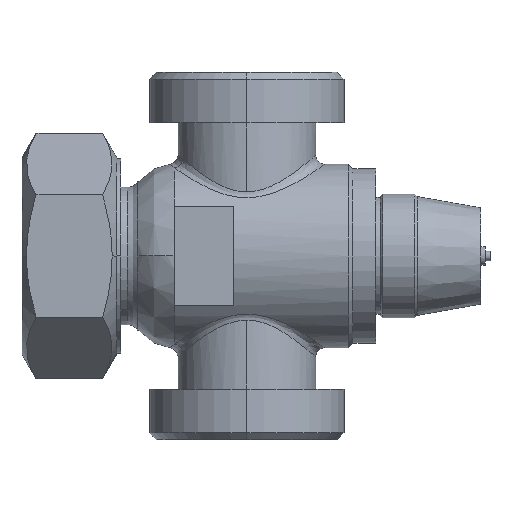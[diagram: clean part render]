
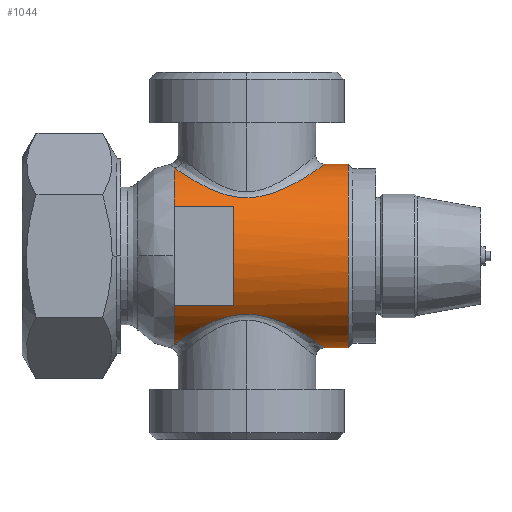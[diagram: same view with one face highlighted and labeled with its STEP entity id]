
A CAD part, left-side view. The second image highlights one B-rep face of the part: STEP entity #1044.
In plain terms, the highlighted cylindrical face has radius 20 mm (diameter 40 mm), a partial arc.
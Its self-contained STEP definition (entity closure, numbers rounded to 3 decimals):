
#837=CARTESIAN_POINT('',(0.0,-22.1,20.));
#838=VERTEX_POINT('',#837);
#847=CARTESIAN_POINT('',(0.,-22.1,60.));
#848=VERTEX_POINT('',#847);
#906=CARTESIAN_POINT('',(0.,-4.5,40.));
#907=DIRECTION('',(0.,1.0,0.));
#908=DIRECTION('',(0.0,0.0,-1.0));
#909=AXIS2_PLACEMENT_3D('',#906,#907,#908);
#910=CYLINDRICAL_SURFACE('',#909,20.0);
#911=CARTESIAN_POINT('',(0.,-17.,20.));
#912=VERTEX_POINT('',#911);
#913=CARTESIAN_POINT('',(0.0,-22.1,20.));
#914=DIRECTION('',(0.0,1.0,0.0));
#915=VECTOR('',#914,5.1);
#916=LINE('',#913,#915);
#917=EDGE_CURVE('',#838,#912,#916,.T.);
#918=ORIENTED_EDGE('',*,*,#917,.F.);
#919=CARTESIAN_POINT('',(0.,-22.1,40.));
#920=DIRECTION('',(0.0,1.0,0.0));
#921=DIRECTION('',(0.0,0.0,-1.0));
#922=AXIS2_PLACEMENT_3D('',#919,#920,#921);
#923=CIRCLE('',#922,20.0);
#924=EDGE_CURVE('',#838,#848,#923,.T.);
#925=ORIENTED_EDGE('',*,*,#924,.T.);
#926=CARTESIAN_POINT('',(0.,-17.,60.));
#927=VERTEX_POINT('',#926);
#928=CARTESIAN_POINT('',(0.,-17.,60.));
#929=DIRECTION('',(0.0,-1.0,0.0));
#930=VECTOR('',#929,5.1);
#931=LINE('',#928,#930);
#932=EDGE_CURVE('',#927,#848,#931,.T.);
#933=ORIENTED_EDGE('',*,*,#932,.F.);
#934=CARTESIAN_POINT('',(-15.455,0.,52.695));
#935=VERTEX_POINT('',#934);
#936=CARTESIAN_POINT('',(0.,-17.,60.));
#937=CARTESIAN_POINT('',(-2.789,-17.,60.));
#938=CARTESIAN_POINT('',(-5.566,-16.122,59.368));
#939=CARTESIAN_POINT('',(-10.35,-13.025,57.33));
#940=CARTESIAN_POINT('',(-12.312,-10.745,55.867));
#941=CARTESIAN_POINT('',(-14.78,-5.629,53.562));
#942=CARTESIAN_POINT('',(-15.455,-2.864,52.695));
#943=CARTESIAN_POINT('',(-15.455,0.,52.695));
#944=B_SPLINE_CURVE_WITH_KNOTS('',3,(#936,#937,#938,#939,#940,#941,#942,#943),.UNSPECIFIED.,.F.,.U.,(4,2,2,4),(71.757,79.639,88.347,95.678),.UNSPECIFIED.);
#945=EDGE_CURVE('',#935,#927,#944,.F.);
#946=ORIENTED_EDGE('',*,*,#945,.F.);
#947=CARTESIAN_POINT('',(-5.612,15.84,59.197));
#948=VERTEX_POINT('',#947);
#949=CARTESIAN_POINT('',(-15.455,0.,52.695));
#950=CARTESIAN_POINT('',(-15.455,0.998,52.695));
#951=CARTESIAN_POINT('',(-15.374,1.995,52.795));
#952=CARTESIAN_POINT('',(-15.218,2.96,52.977));
#953=CARTESIAN_POINT('',(-14.97,4.504,53.268));
#954=CARTESIAN_POINT('',(-14.538,5.954,53.759));
#955=CARTESIAN_POINT('',(-13.963,7.287,54.319));
#956=CARTESIAN_POINT('',(-13.129,9.219,55.132));
#957=CARTESIAN_POINT('',(-11.997,10.924,56.087));
#958=CARTESIAN_POINT('',(-10.595,12.376,56.963));
#959=CARTESIAN_POINT('',(-9.192,13.829,57.839));
#960=CARTESIAN_POINT('',(-7.513,15.024,58.641));
#961=CARTESIAN_POINT('',(-5.612,15.84,59.197));
#962=B_SPLINE_CURVE_WITH_KNOTS('',3,(#949,#950,#951,#952,#953,#954,#955,#956,#957,#958,#959,#960,#961),.UNSPECIFIED.,.F.,.U.,(4,3,3,3,4),(0.0,2.553,6.639,12.558,18.479),.UNSPECIFIED.);
#963=EDGE_CURVE('',#948,#935,#962,.F.);
#964=ORIENTED_EDGE('',*,*,#963,.F.);
#965=CARTESIAN_POINT('',(-16.827,15.84,50.81));
#966=VERTEX_POINT('',#965);
#967=CARTESIAN_POINT('',(0.,15.84,40.));
#968=DIRECTION('',(0.0,1.0,0.0));
#969=DIRECTION('',(-1.0,0.0,0.0));
#970=AXIS2_PLACEMENT_3D('',#967,#968,#969);
#971=CIRCLE('',#970,20.0);
#972=EDGE_CURVE('',#966,#948,#971,.T.);
#973=ORIENTED_EDGE('',*,*,#972,.F.);
#974=CARTESIAN_POINT('',(-16.827,2.949,50.81));
#975=VERTEX_POINT('',#974);
#976=CARTESIAN_POINT('',(-16.827,2.949,50.81));
#977=DIRECTION('',(0.0,1.0,0.0));
#978=VECTOR('',#977,12.891);
#979=LINE('',#976,#978);
#980=EDGE_CURVE('',#975,#966,#979,.T.);
#981=ORIENTED_EDGE('',*,*,#980,.F.);
#982=CARTESIAN_POINT('',(-16.827,2.949,29.19));
#983=VERTEX_POINT('',#982);
#984=CARTESIAN_POINT('',(0.,2.949,40.));
#985=DIRECTION('',(0.0,1.0,0.0));
#986=DIRECTION('',(0.0,0.0,-1.0));
#987=AXIS2_PLACEMENT_3D('',#984,#985,#986);
#988=CIRCLE('',#987,20.0);
#989=EDGE_CURVE('',#983,#975,#988,.T.);
#990=ORIENTED_EDGE('',*,*,#989,.F.);
#991=CARTESIAN_POINT('',(-16.827,15.84,29.19));
#992=VERTEX_POINT('',#991);
#993=CARTESIAN_POINT('',(-16.827,15.84,29.19));
#994=DIRECTION('',(0.0,-1.0,0.0));
#995=VECTOR('',#994,12.891);
#996=LINE('',#993,#995);
#997=EDGE_CURVE('',#992,#983,#996,.T.);
#998=ORIENTED_EDGE('',*,*,#997,.F.);
#999=CARTESIAN_POINT('',(-5.612,15.84,20.803));
#1000=VERTEX_POINT('',#999);
#1001=CARTESIAN_POINT('',(0.,15.84,40.));
#1002=DIRECTION('',(0.0,1.0,0.0));
#1003=DIRECTION('',(-1.0,0.0,0.0));
#1004=AXIS2_PLACEMENT_3D('',#1001,#1002,#1003);
#1005=CIRCLE('',#1004,20.0);
#1006=EDGE_CURVE('',#1000,#992,#1005,.T.);
#1007=ORIENTED_EDGE('',*,*,#1006,.F.);
#1008=CARTESIAN_POINT('',(-15.455,0.,27.305));
#1009=VERTEX_POINT('',#1008);
#1010=CARTESIAN_POINT('',(-5.612,15.84,20.803));
#1011=CARTESIAN_POINT('',(-6.39,15.506,21.031));
#1012=CARTESIAN_POINT('',(-7.137,15.105,21.301));
#1013=CARTESIAN_POINT('',(-7.839,14.651,21.6));
#1014=CARTESIAN_POINT('',(-10.35,13.025,22.67));
#1015=CARTESIAN_POINT('',(-12.312,10.745,24.133));
#1016=CARTESIAN_POINT('',(-13.652,7.967,25.384));
#1017=CARTESIAN_POINT('',(-14.78,5.629,26.438));
#1018=CARTESIAN_POINT('',(-15.455,2.864,27.305));
#1019=CARTESIAN_POINT('',(-15.455,0.,27.305));
#1020=B_SPLINE_CURVE_WITH_KNOTS('',3,(#1010,#1011,#1012,#1013,#1014,#1015,#1016,#1017,#1018,#1019),.UNSPECIFIED.,.F.,.U.,(4,3,3,4),(77.204,79.639,88.347,95.678),.UNSPECIFIED.);
#1021=EDGE_CURVE('',#1009,#1000,#1020,.F.);
#1022=ORIENTED_EDGE('',*,*,#1021,.F.);
#1023=CARTESIAN_POINT('',(-15.455,0.,27.305));
#1024=CARTESIAN_POINT('',(-15.455,-0.998,27.305));
#1025=CARTESIAN_POINT('',(-15.374,-1.995,27.205));
#1026=CARTESIAN_POINT('',(-15.218,-2.96,27.023));
#1027=CARTESIAN_POINT('',(-14.97,-4.504,26.732));
#1028=CARTESIAN_POINT('',(-14.538,-5.954,26.241));
#1029=CARTESIAN_POINT('',(-13.963,-7.287,25.681));
#1030=CARTESIAN_POINT('',(-13.129,-9.219,24.868));
#1031=CARTESIAN_POINT('',(-11.997,-10.924,23.913));
#1032=CARTESIAN_POINT('',(-10.595,-12.376,23.037));
#1033=CARTESIAN_POINT('',(-8.794,-14.242,21.912));
#1034=CARTESIAN_POINT('',(-6.518,-15.69,20.91));
#1035=CARTESIAN_POINT('',(-3.943,-16.437,20.393));
#1036=CARTESIAN_POINT('',(-2.671,-16.807,20.137));
#1037=CARTESIAN_POINT('',(-1.334,-17.,20.));
#1038=CARTESIAN_POINT('',(0.,-17.,20.));
#1039=B_SPLINE_CURVE_WITH_KNOTS('',3,(#1023,#1024,#1025,#1026,#1027,#1028,#1029,#1030,#1031,#1032,#1033,#1034,#1035,#1036,#1037,#1038),.UNSPECIFIED.,.F.,.U.,(4,3,3,3,3,4),(0.0,2.553,6.639,12.558,20.162,23.922),.UNSPECIFIED.);
#1040=EDGE_CURVE('',#912,#1009,#1039,.F.);
#1041=ORIENTED_EDGE('',*,*,#1040,.F.);
#1042=EDGE_LOOP('',(#918,#925,#933,#946,#964,#973,#981,#990,#998,#1007,#1022,#1041));
#1043=FACE_OUTER_BOUND('',#1042,.T.);
#1044=ADVANCED_FACE('',(#1043),#910,.T.);
